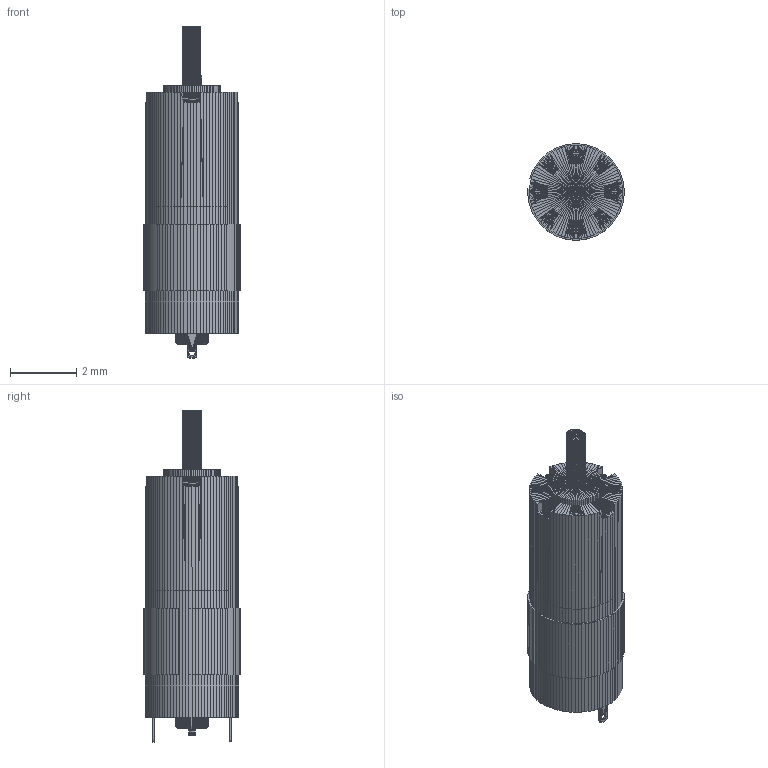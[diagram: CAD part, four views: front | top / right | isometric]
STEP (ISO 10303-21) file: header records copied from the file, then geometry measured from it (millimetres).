
FILE_DESCRIPTION(/* description */ (''),/* implementation_level */ '2;1');
FILE_NAME(/* name */ 'GA28Y-~1',/* time_stamp */ '2022-11-28T17:13:56+08:00',/* author */ (''),/* organization */ (''),/* preprocessor_version */ 'ST-DEVELOPER v16.5',/* originating_system */ '',/* authorisation */ '');
FILE_SCHEMA (('CONFIG_CONTROL_DESIGN'));
Products named in the file (1): Document
Bounding box: 2.9 x 2.9 x 9.99 mm (x, y, z)
Surface area: 141 mm2 (no closed solid volume)
Topology: 0 solids, 0 shells, 7218 faces, 25966 edges, 25966 vertices
Faces by surface type: bspline 5593, plane 1625
Entity records: 152858 total; most frequent: CARTESIAN_POINT 75931, COMPOSITE_CURVE_SEGMENT 25966, B_SPLINE_CURVE_WITH_KNOTS 25966, CURVE_BOUNDED_SURFACE 7218, OUTER_BOUNDARY_CURVE 7218, B_SPLINE_SURFACE_WITH_KNOTS 5593, DIRECTION 1629, AXIS2_PLACEMENT_3D 1627
